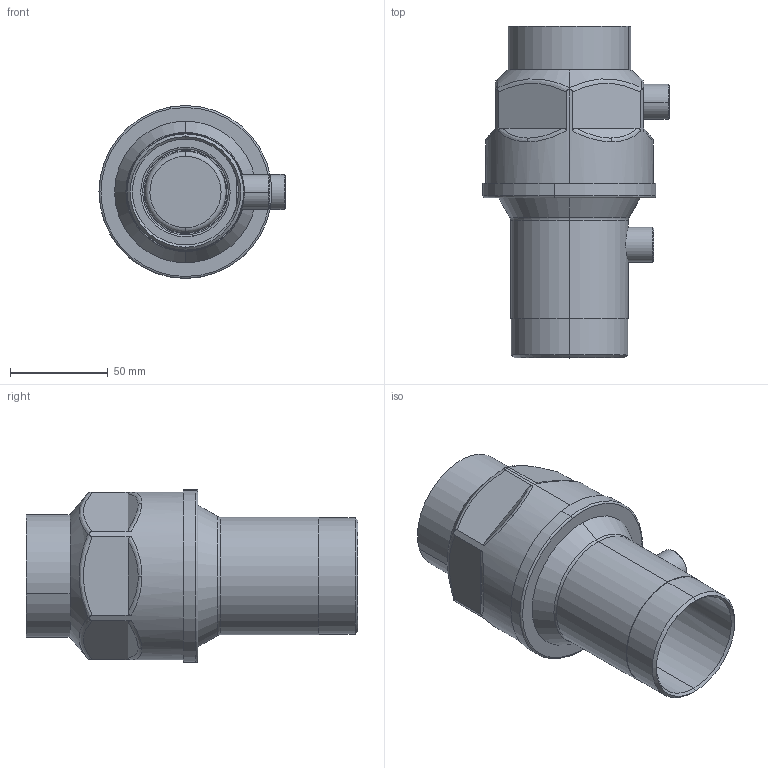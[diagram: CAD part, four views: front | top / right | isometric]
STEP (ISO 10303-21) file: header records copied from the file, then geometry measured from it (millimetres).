
FILE_DESCRIPTION (( 'STEP AP203' ), '1' );
FILE_NAME ('06C2115.STEP', '2021-05-13T13:30:36', ( '' ), ( '' ), 'SwSTEP 2.0', 'SolidWorks 2016', '' );
FILE_SCHEMA (( 'CONFIG_CONTROL_DESIGN' ));
Length unit declared in the file: millimetre
Products named in the file (15): 06B2127; 06C2115; 05N9702 X G2; 06C2122; 06C2121; 06I9610 X G2; 06F97003 X G2; 06C2116; 06C2118; 06I0608 X G2; 06C2117; 06N9705 X G2; OR6187 X G2; 06I9611 X G2; 06C2120
Assembly tree (14 placements, depth 4):
  06C2115
    06C2116
      06I9610 X G2
      06N9705 X G2
      06I9611 X G2
      05N9702 X G2
      06F97003 X G2
      OR6187 X G2
      06C2121
        06C2120
        06B2127
    06C2117
      06I0608 X G2
      06C2118
      06C2122
Bounding box: 95.3 x 169.97 x 88.6 mm (x, y, z)
Volume: 122668.7 mm3; surface area: 119820.2 mm2
Topology: 11 solids, 11 shells, 299 faces, 741 edges, 472 vertices
Faces by surface type: cylinder 109, plane 80, torus 46, bspline 38, cone 26
Entity records: 20966 total; most frequent: CARTESIAN_POINT 12438, ORIENTED_EDGE 1482, DIRECTION 1475, EDGE_CURVE 741, AXIS2_PLACEMENT_3D 621, VERTEX_POINT 472, CIRCLE 340, EDGE_LOOP 329
